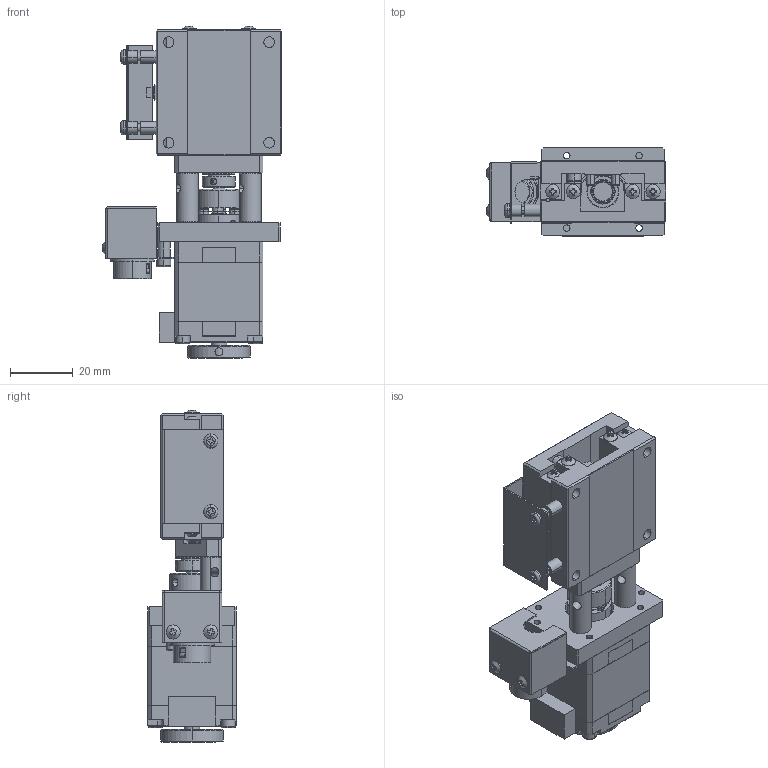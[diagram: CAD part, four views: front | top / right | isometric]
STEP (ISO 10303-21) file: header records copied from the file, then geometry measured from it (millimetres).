
FILE_DESCRIPTION (( 'STEP AP214' ), '1' );
FILE_NAME ('TXS4015E-L1-M28R.STEP', '2025-01-03T09:21:05', ( '' ), ( '' ), 'SwSTEP 2.0', 'SolidWorks 2020', '' );
FILE_SCHEMA (( 'AUTOMOTIVE_DESIGN' ));
Length unit declared in the file: millimetre
Products named in the file (1): TXS4015E-L1-M28R
Bounding box: 57.13 x 28 x 105.63 mm (x, y, z)
Volume: 61946.4 mm3; surface area: 38533.2 mm2
Topology: 85 solids, 85 shells, 1820 faces, 4712 edges, 3044 vertices
Faces by surface type: plane 894, cylinder 586, cone 176, bspline 84, sphere 56, torus 24
Entity records: 60681 total; most frequent: CARTESIAN_POINT 16698, ORIENTED_EDGE 9024, DIRECTION 8698, EDGE_CURVE 4512, AXIS2_PLACEMENT_3D 3161, VERTEX_POINT 2960, VECTOR 2376, LINE 2376
